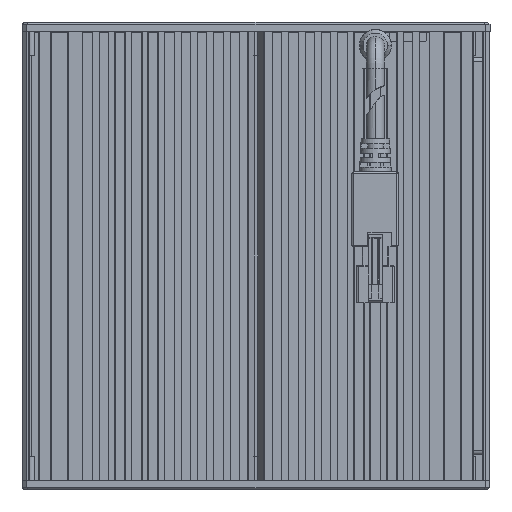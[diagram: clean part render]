
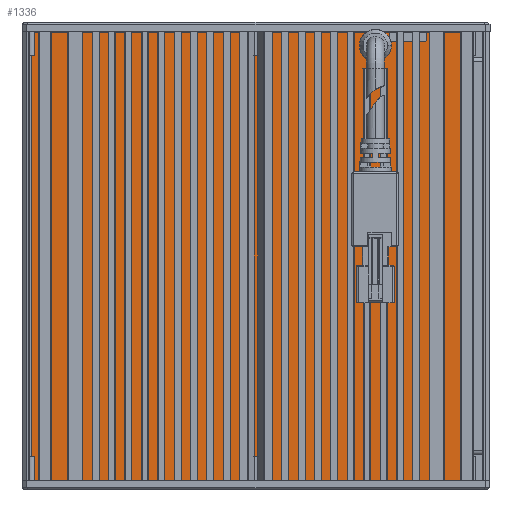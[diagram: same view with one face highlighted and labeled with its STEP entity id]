
A CAD part, front view. The second image highlights one B-rep face of the part: STEP entity #1336.
In plain terms, the highlighted planar face has unit normal (0, -1, 0).
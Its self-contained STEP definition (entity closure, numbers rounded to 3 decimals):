
#250 = VECTOR ( 'NONE', #5684, 1000. ) ;
#379 = ORIENTED_EDGE ( 'NONE', *, *, #16807, .T. ) ;
#846 = ORIENTED_EDGE ( 'NONE', *, *, #1088, .F. ) ;
#949 = EDGE_CURVE ( 'NONE', #2830, #2816, #11288, .T. ) ;
#1088 = EDGE_CURVE ( 'NONE', #10627, #2830, #5028, .T. ) ;
#1199 = VECTOR ( 'NONE', #15266, 1000. ) ;
#1336 = ADVANCED_FACE ( 'NONE', ( #9053 ), #15671, .F. ) ;
#1631 = LINE ( 'NONE', #18639, #8830 ) ;
#2088 = LINE ( 'NONE', #5747, #5952 ) ;
#2547 = DIRECTION ( 'NONE',  ( 0., 1., 0. ) ) ;
#2672 = DIRECTION ( 'NONE',  ( 0., 0., -1. ) ) ;
#2739 = ORIENTED_EDGE ( 'NONE', *, *, #9441, .F. ) ;
#2816 = VERTEX_POINT ( 'NONE', #18508 ) ;
#2830 = VERTEX_POINT ( 'NONE', #6581 ) ;
#2921 = DIRECTION ( 'NONE',  ( -1., 0., 0. ) ) ;
#3412 = EDGE_CURVE ( 'NONE', #7849, #6067, #10206, .T. ) ;
#3813 = EDGE_CURVE ( 'NONE', #6067, #4458, #2088, .T. ) ;
#4085 = VERTEX_POINT ( 'NONE', #6972 ) ;
#4092 = CARTESIAN_POINT ( 'NONE',  ( 29., -53.4, 46.3 ) ) ;
#4114 = ORIENTED_EDGE ( 'NONE', *, *, #11360, .T. ) ;
#4280 = DIRECTION ( 'NONE',  ( -1., 0., 0. ) ) ;
#4308 = VECTOR ( 'NONE', #11969, 1000. ) ;
#4454 = CARTESIAN_POINT ( 'NONE',  ( 46., -53.4, 47.8 ) ) ;
#4458 = VERTEX_POINT ( 'NONE', #11839 ) ;
#4680 = ORIENTED_EDGE ( 'NONE', *, *, #4913, .F. ) ;
#4777 = EDGE_CURVE ( 'NONE', #14185, #13872, #13524, .T. ) ;
#4913 = EDGE_CURVE ( 'NONE', #4085, #14185, #7933, .T. ) ;
#4971 = CARTESIAN_POINT ( 'NONE',  ( -48., -53.4, -48. ) ) ;
#5028 = LINE ( 'NONE', #4971, #1199 ) ;
#5208 = DIRECTION ( 'NONE',  ( 0., 0., -1. ) ) ;
#5377 = CARTESIAN_POINT ( 'NONE',  ( 46., -53.4, -48. ) ) ;
#5531 = DIRECTION ( 'NONE',  ( -1., 0., 0. ) ) ;
#5684 = DIRECTION ( 'NONE',  ( 1., 0., 0. ) ) ;
#5747 = CARTESIAN_POINT ( 'NONE',  ( 28.5, -53.4, 45.8 ) ) ;
#5898 = DIRECTION ( 'NONE',  ( 1., 0., 0. ) ) ;
#5952 = VECTOR ( 'NONE', #2921, 1000. ) ;
#6067 = VERTEX_POINT ( 'NONE', #10014 ) ;
#6211 = CARTESIAN_POINT ( 'NONE',  ( 46., -53.4, -48. ) ) ;
#6581 = CARTESIAN_POINT ( 'NONE',  ( -48., -53.4, 47.8 ) ) ;
#6972 = CARTESIAN_POINT ( 'NONE',  ( 36.5, -53.4, 47.8 ) ) ;
#7474 = VECTOR ( 'NONE', #5208, 1000. ) ;
#7485 = CARTESIAN_POINT ( 'NONE',  ( 46., -53.4, 47.8 ) ) ;
#7588 = CARTESIAN_POINT ( 'NONE',  ( 36.5, -53.4, 46.3 ) ) ;
#7849 = VERTEX_POINT ( 'NONE', #7588 ) ;
#7933 = LINE ( 'NONE', #4454, #14668 ) ;
#7955 = AXIS2_PLACEMENT_3D ( 'NONE', #8569, #2547, #13133 ) ;
#8286 = EDGE_CURVE ( 'NONE', #10815, #2816, #1631, .T. ) ;
#8569 = CARTESIAN_POINT ( 'NONE',  ( 36., -53.4, 46.3 ) ) ;
#8830 = VECTOR ( 'NONE', #9956, 1000. ) ;
#8991 = CARTESIAN_POINT ( 'NONE',  ( 28.5, -53.4, 46.3 ) ) ;
#9053 = FACE_OUTER_BOUND ( 'NONE', #13683, .T. ) ;
#9441 = EDGE_CURVE ( 'NONE', #13872, #10627, #15730, .T. ) ;
#9743 = VECTOR ( 'NONE', #2672, 1000. ) ;
#9804 = CIRCLE ( 'NONE', #17861, 0.5 ) ;
#9956 = DIRECTION ( 'NONE',  ( 0., 0., 1. ) ) ;
#9960 = CARTESIAN_POINT ( 'NONE',  ( -1., -53.4, -0.1 ) ) ;
#10014 = CARTESIAN_POINT ( 'NONE',  ( 36., -53.4, 45.8 ) ) ;
#10206 = CIRCLE ( 'NONE', #7955, 0.5 ) ;
#10447 = AXIS2_PLACEMENT_3D ( 'NONE', #9960, #12851, #4280 ) ;
#10627 = VERTEX_POINT ( 'NONE', #12703 ) ;
#10815 = VERTEX_POINT ( 'NONE', #8991 ) ;
#11288 = LINE ( 'NONE', #14801, #250 ) ;
#11298 = ORIENTED_EDGE ( 'NONE', *, *, #8286, .T. ) ;
#11360 = EDGE_CURVE ( 'NONE', #4085, #7849, #15559, .T. ) ;
#11839 = CARTESIAN_POINT ( 'NONE',  ( 29., -53.4, 45.8 ) ) ;
#11969 = DIRECTION ( 'NONE',  ( -1., 0., 0. ) ) ;
#12703 = CARTESIAN_POINT ( 'NONE',  ( -48., -53.4, -48. ) ) ;
#12851 = DIRECTION ( 'NONE',  ( 0., 1., 0. ) ) ;
#12966 = ORIENTED_EDGE ( 'NONE', *, *, #4777, .F. ) ;
#13133 = DIRECTION ( 'NONE',  ( -1., 0., 0. ) ) ;
#13524 = LINE ( 'NONE', #17009, #9743 ) ;
#13683 = EDGE_LOOP ( 'NONE', ( #4114, #16700, #18363, #379, #11298, #18583, #846, #2739, #12966, #4680 ) ) ;
#13872 = VERTEX_POINT ( 'NONE', #5377 ) ;
#14090 = DIRECTION ( 'NONE',  ( 0., 1., 0. ) ) ;
#14185 = VERTEX_POINT ( 'NONE', #7485 ) ;
#14668 = VECTOR ( 'NONE', #5898, 1000. ) ;
#14801 = CARTESIAN_POINT ( 'NONE',  ( 46., -53.4, 47.8 ) ) ;
#15239 = CARTESIAN_POINT ( 'NONE',  ( 36.5, -53.4, 47.8 ) ) ;
#15266 = DIRECTION ( 'NONE',  ( 0., 0., 1. ) ) ;
#15559 = LINE ( 'NONE', #15239, #7474 ) ;
#15671 = PLANE ( 'NONE',  #10447 ) ;
#15730 = LINE ( 'NONE', #6211, #4308 ) ;
#16700 = ORIENTED_EDGE ( 'NONE', *, *, #3412, .T. ) ;
#16807 = EDGE_CURVE ( 'NONE', #4458, #10815, #9804, .T. ) ;
#17009 = CARTESIAN_POINT ( 'NONE',  ( 46., -53.4, -48. ) ) ;
#17861 = AXIS2_PLACEMENT_3D ( 'NONE', #4092, #14090, #5531 ) ;
#18363 = ORIENTED_EDGE ( 'NONE', *, *, #3813, .T. ) ;
#18508 = CARTESIAN_POINT ( 'NONE',  ( 28.5, -53.4, 47.8 ) ) ;
#18583 = ORIENTED_EDGE ( 'NONE', *, *, #949, .F. ) ;
#18639 = CARTESIAN_POINT ( 'NONE',  ( 28.5, -53.4, 47.8 ) ) ;
